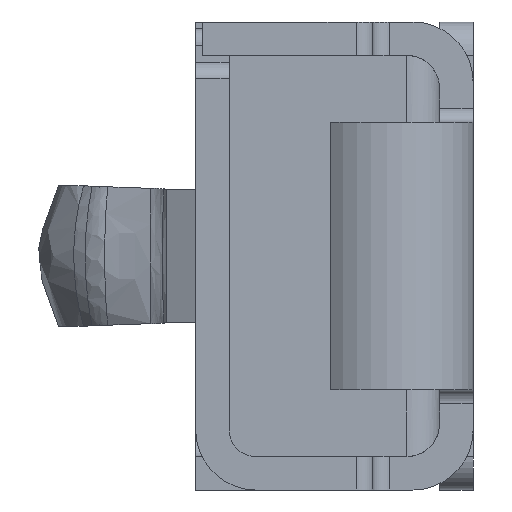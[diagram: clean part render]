
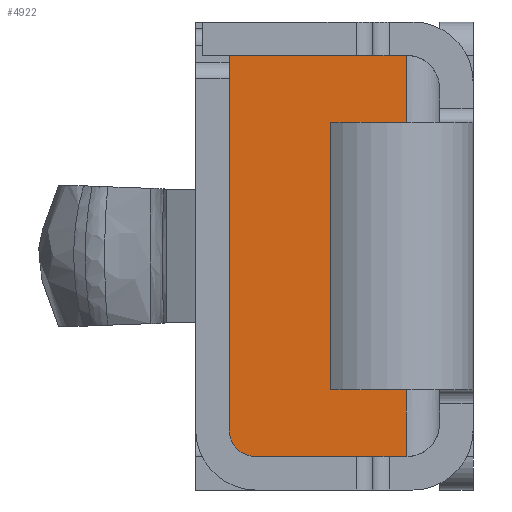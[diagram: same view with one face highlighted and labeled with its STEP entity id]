
A CAD part, left-side view. The second image highlights one B-rep face of the part: STEP entity #4922.
In plain terms, the highlighted planar face has unit normal (-1, 0, 0) as drawn and (1, 0, 0) by its records, which use the part's own axes.
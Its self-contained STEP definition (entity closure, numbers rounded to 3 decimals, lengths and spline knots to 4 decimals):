
#176=DIRECTION('',(0.,0.,-1.));
#177=VECTOR('',#176,0.35);
#178=CARTESIAN_POINT('',(1.19,0.6,-0.3));
#179=LINE('',#178,#177);
#205=DIRECTION('',(0.,-1.,0.));
#206=VECTOR('',#205,0.2);
#207=CARTESIAN_POINT('',(1.19,-0.4,-0.2));
#208=LINE('',#207,#206);
#209=DIRECTION('',(0.,-1.,0.));
#210=VECTOR('',#209,0.2);
#211=CARTESIAN_POINT('',(1.19,0.6,-0.2));
#212=LINE('',#211,#210);
#213=DIRECTION('',(0.,0.,1.));
#214=VECTOR('',#213,0.1);
#215=CARTESIAN_POINT('',(1.19,0.6,-0.3));
#216=LINE('',#215,#214);
#217=DIRECTION('',(0.,1.,0.));
#218=VECTOR('',#217,0.07);
#219=CARTESIAN_POINT('',(1.19,-0.6,-0.73));
#220=LINE('',#219,#218);
#221=DIRECTION('',(0.,0.,-1.));
#222=VECTOR('',#221,0.1);
#223=CARTESIAN_POINT('',(1.19,-0.6,-0.2));
#224=LINE('',#223,#222);
#563=DIRECTION('',(0.,-1.,0.));
#564=VECTOR('',#563,0.8);
#565=CARTESIAN_POINT('',(1.19,0.4,-0.4261));
#566=LINE('',#565,#564);
#571=DIRECTION('',(0.,0.,1.));
#572=VECTOR('',#571,0.2261);
#573=CARTESIAN_POINT('',(1.19,-0.4,-0.4261));
#574=LINE('',#573,#572);
#678=DIRECTION('',(0.,-1.,0.));
#679=VECTOR('',#678,1.05);
#680=CARTESIAN_POINT('',(1.19,0.52,-0.73));
#681=LINE('',#680,#679);
#720=CARTESIAN_POINT('',(1.19,0.52,-0.65));
#721=DIRECTION('',(-1.,0.,0.));
#722=DIRECTION('',(0.,1.,0.));
#723=AXIS2_PLACEMENT_3D('',#720,#721,#722);
#1741=DIRECTION('',(0.,0.,-1.));
#1742=VECTOR('',#1741,0.43);
#1743=CARTESIAN_POINT('',(1.19,-0.6,-0.3));
#1744=LINE('',#1743,#1742);
#3742=DIRECTION('',(0.,0.,1.));
#3743=VECTOR('',#3742,0.2261);
#3744=CARTESIAN_POINT('',(1.19,0.4,-0.4261));
#3745=LINE('',#3744,#3743);
#4280=CARTESIAN_POINT('',(1.19,-0.6,-0.3));
#4281=CARTESIAN_POINT('',(1.19,-0.6,-0.73));
#4282=VERTEX_POINT('',#4280);
#4283=VERTEX_POINT('',#4281);
#4294=CARTESIAN_POINT('',(1.19,0.6,-0.3));
#4295=CARTESIAN_POINT('',(1.19,0.6,-0.65));
#4296=VERTEX_POINT('',#4294);
#4297=VERTEX_POINT('',#4295);
#4322=CARTESIAN_POINT('',(1.19,0.4,-0.4261));
#4323=CARTESIAN_POINT('',(1.19,-0.4,-0.4261));
#4324=VERTEX_POINT('',#4322);
#4325=VERTEX_POINT('',#4323);
#4346=CARTESIAN_POINT('',(1.19,0.52,-0.73));
#4347=CARTESIAN_POINT('',(1.19,-0.53,-0.73));
#4348=VERTEX_POINT('',#4346);
#4349=VERTEX_POINT('',#4347);
#4574=CARTESIAN_POINT('',(1.19,-0.6,-0.2));
#4576=VERTEX_POINT('',#4574);
#4578=CARTESIAN_POINT('',(1.19,-0.4,-0.2));
#4579=VERTEX_POINT('',#4578);
#4586=CARTESIAN_POINT('',(1.19,0.6,-0.2));
#4587=CARTESIAN_POINT('',(1.19,0.4,-0.2));
#4588=VERTEX_POINT('',#4586);
#4589=VERTEX_POINT('',#4587);
#4892=CARTESIAN_POINT('',(1.19,0.,0.));
#4893=DIRECTION('',(1.,0.,0.));
#4894=DIRECTION('',(0.,-1.,0.));
#4895=AXIS2_PLACEMENT_3D('',#4892,#4893,#4894);
#4896=PLANE('',#4895);
#4898=ORIENTED_EDGE('',*,*,#4897,.F.);
#4900=ORIENTED_EDGE('',*,*,#4899,.F.);
#4902=ORIENTED_EDGE('',*,*,#4901,.F.);
#4904=ORIENTED_EDGE('',*,*,#4903,.T.);
#4906=ORIENTED_EDGE('',*,*,#4905,.F.);
#4908=ORIENTED_EDGE('',*,*,#4907,.F.);
#4909=ORIENTED_EDGE('',*,*,#4849,.T.);
#4911=ORIENTED_EDGE('',*,*,#4910,.T.);
#4913=ORIENTED_EDGE('',*,*,#4912,.T.);
#4915=ORIENTED_EDGE('',*,*,#4914,.F.);
#4917=ORIENTED_EDGE('',*,*,#4916,.F.);
#4919=ORIENTED_EDGE('',*,*,#4918,.F.);
#4920=EDGE_LOOP('',(#4898,#4900,#4902,#4904,#4906,#4908,#4909,#4911,#4913,#4915,
#4917,#4919));
#4921=FACE_OUTER_BOUND('',#4920,.F.);
#4922=ADVANCED_FACE('',(#4921),#4896,.T.);
#724=CIRCLE('',#723,0.08);
#4849=EDGE_CURVE('',#4296,#4297,#179,.T.);
#4897=EDGE_CURVE('',#4579,#4576,#208,.T.);
#4899=EDGE_CURVE('',#4325,#4579,#574,.T.);
#4901=EDGE_CURVE('',#4324,#4325,#566,.T.);
#4903=EDGE_CURVE('',#4324,#4589,#3745,.T.);
#4905=EDGE_CURVE('',#4588,#4589,#212,.T.);
#4907=EDGE_CURVE('',#4296,#4588,#216,.T.);
#4910=EDGE_CURVE('',#4297,#4348,#724,.T.);
#4912=EDGE_CURVE('',#4348,#4349,#681,.T.);
#4914=EDGE_CURVE('',#4283,#4349,#220,.T.);
#4916=EDGE_CURVE('',#4282,#4283,#1744,.T.);
#4918=EDGE_CURVE('',#4576,#4282,#224,.T.);
